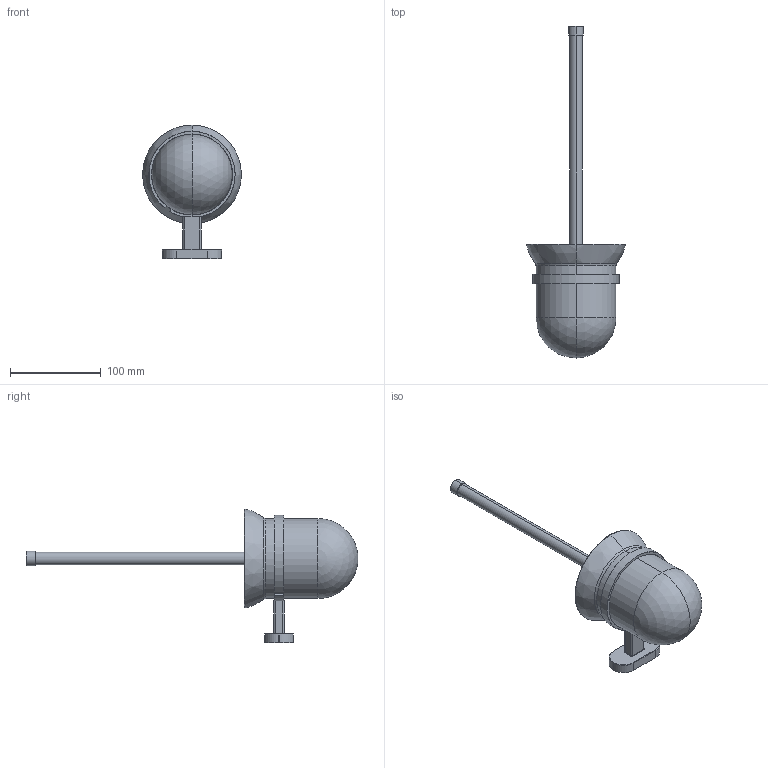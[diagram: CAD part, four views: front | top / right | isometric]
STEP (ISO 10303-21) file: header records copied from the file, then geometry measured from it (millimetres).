
FILE_DESCRIPTION (( 'STEP AP203' ), '1' );
FILE_NAME ('PL18810.STEP', '2018-08-27T10:54:36', ( '' ), ( '' ), 'SwSTEP 2.0', 'SolidWorks 2018', '' );
FILE_SCHEMA (( 'CONFIG_CONTROL_DESIGN' ));
Length unit declared in the file: millimetre
Products named in the file (1): PL18810
Bounding box: 108.67 x 365.2 x 147.12 mm (x, y, z)
Volume: 272682.6 mm3; surface area: 104923.3 mm2
Topology: 3 solids, 3 shells, 133 faces, 308 edges, 171 vertices
Faces by surface type: cylinder 47, torus 44, plane 22, sphere 14, bspline 6
Entity records: 3910 total; most frequent: CARTESIAN_POINT 878, DIRECTION 704, ORIENTED_EDGE 576, AXIS2_PLACEMENT_3D 312, EDGE_CURVE 288, CIRCLE 184, VERTEX_POINT 165, EDGE_LOOP 137
